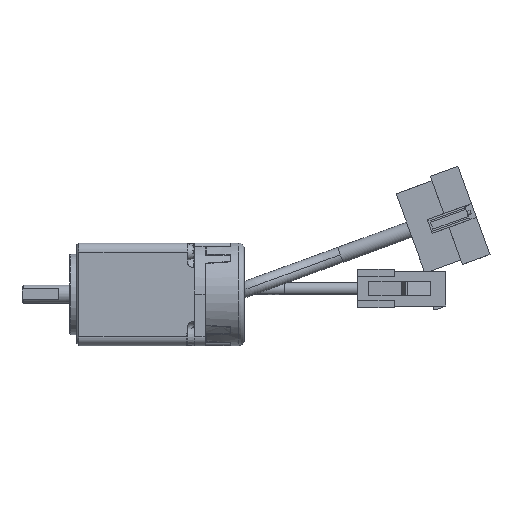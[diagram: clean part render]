
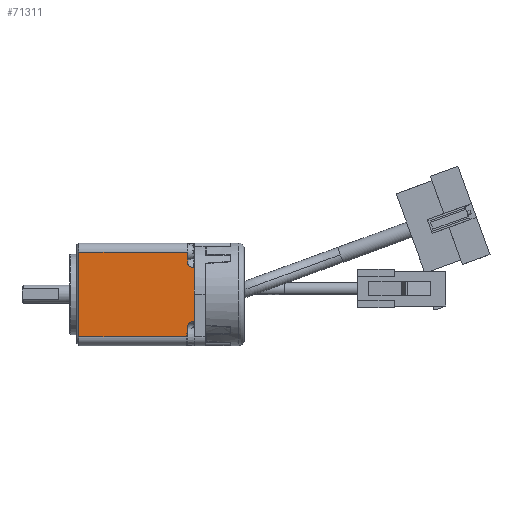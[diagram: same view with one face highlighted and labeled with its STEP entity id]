
A CAD part, front view. The second image highlights one B-rep face of the part: STEP entity #71311.
In plain terms, the highlighted planar face has unit normal (0, -1, 0).
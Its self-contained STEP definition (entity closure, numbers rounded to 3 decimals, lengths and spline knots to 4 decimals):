
#551=PLANE('',#75284);
#4130=LINE('',#100474,#13550);
#4131=LINE('',#100476,#13551);
#4132=LINE('',#100478,#13552);
#4133=LINE('',#100482,#13553);
#4134=LINE('',#100484,#13554);
#4135=LINE('',#100486,#13555);
#4136=LINE('',#100488,#13556);
#4137=LINE('',#100490,#13557);
#13550=VECTOR('',#81017,0.0118);
#13551=VECTOR('',#81018,0.5787);
#13552=VECTOR('',#81019,0.0118);
#13553=VECTOR('',#81022,0.1063);
#13554=VECTOR('',#81023,1.1693);
#13555=VECTOR('',#81024,0.9055);
#13556=VECTOR('',#81025,1.1693);
#13557=VECTOR('',#81026,0.1024);
#22933=FACE_OUTER_BOUND('',#26759,.T.);
#26759=EDGE_LOOP('',(#50606,#50607,#50608,#50609,#50610,#50611,#50612,#50613,
#50614,#50615));
#30705=CIRCLE('',#75285,0.0591);
#30706=CIRCLE('',#75286,0.0591);
#32048=VERTEX_POINT('',#100472);
#32049=VERTEX_POINT('',#100473);
#32050=VERTEX_POINT('',#100475);
#32051=VERTEX_POINT('',#100477);
#32052=VERTEX_POINT('',#100479);
#32053=VERTEX_POINT('',#100481);
#32054=VERTEX_POINT('',#100483);
#32055=VERTEX_POINT('',#100485);
#32056=VERTEX_POINT('',#100487);
#32057=VERTEX_POINT('',#100489);
#39332=EDGE_CURVE('',#32048,#32049,#4130,.T.);
#39333=EDGE_CURVE('',#32049,#32050,#4131,.T.);
#39334=EDGE_CURVE('',#32050,#32051,#4132,.T.);
#39335=EDGE_CURVE('',#32052,#32051,#30705,.T.);
#39336=EDGE_CURVE('',#32053,#32052,#4133,.T.);
#39337=EDGE_CURVE('',#32054,#32053,#4134,.T.);
#39338=EDGE_CURVE('',#32054,#32055,#4135,.T.);
#39339=EDGE_CURVE('',#32055,#32056,#4136,.T.);
#39340=EDGE_CURVE('',#32056,#32057,#4137,.T.);
#39341=EDGE_CURVE('',#32057,#32048,#30706,.T.);
#50606=ORIENTED_EDGE('',*,*,#39332,.T.);
#50607=ORIENTED_EDGE('',*,*,#39333,.T.);
#50608=ORIENTED_EDGE('',*,*,#39334,.T.);
#50609=ORIENTED_EDGE('',*,*,#39335,.F.);
#50610=ORIENTED_EDGE('',*,*,#39336,.F.);
#50611=ORIENTED_EDGE('',*,*,#39337,.F.);
#50612=ORIENTED_EDGE('',*,*,#39338,.T.);
#50613=ORIENTED_EDGE('',*,*,#39339,.T.);
#50614=ORIENTED_EDGE('',*,*,#39340,.T.);
#50615=ORIENTED_EDGE('',*,*,#39341,.T.);
#71311=ADVANCED_FACE('',(#22933),#551,.T.);
#75284=AXIS2_PLACEMENT_3D('',#100471,#81015,#81016);
#75285=AXIS2_PLACEMENT_3D('',#100480,#81020,#81021);
#75286=AXIS2_PLACEMENT_3D('',#100491,#81027,#81028);
#81015=DIRECTION('center_axis',(0.,-1.,0.));
#81016=DIRECTION('ref_axis',(0.,0.,1.));
#81017=DIRECTION('',(1.,0.,0.));
#81018=DIRECTION('',(0.,0.,1.));
#81019=DIRECTION('',(-1.,0.,0.));
#81020=DIRECTION('center_axis',(0.,-1.,0.));
#81021=DIRECTION('ref_axis',(1.,0.,0.));
#81022=DIRECTION('',(0.,0.,-1.));
#81023=DIRECTION('',(1.,0.,0.));
#81024=DIRECTION('',(0.,0.,-1.));
#81025=DIRECTION('',(1.,0.,0.));
#81026=DIRECTION('',(0.,0.,1.));
#81027=DIRECTION('center_axis',(0.,1.,0.));
#81028=DIRECTION('ref_axis',(-1.,0.,0.));
#100471=CARTESIAN_POINT('Origin',(2.1007,0.,
0.));
#100472=CARTESIAN_POINT('',(2.0495,0.,0.2598));
#100473=CARTESIAN_POINT('',(2.0613,0.,0.2598));
#100474=CARTESIAN_POINT('',(1.4511,0.,0.2598));
#100475=CARTESIAN_POINT('',(2.0613,0.,0.8386));
#100476=CARTESIAN_POINT('',(2.0613,0.,0.));
#100477=CARTESIAN_POINT('',(2.0495,0.,0.8386));
#100478=CARTESIAN_POINT('',(1.4511,0.,0.8386));
#100479=CARTESIAN_POINT('',(1.9904,0.,0.8976));
#100480=CARTESIAN_POINT('Origin',(2.0495,0.,
0.8976));
#100481=CARTESIAN_POINT('',(1.9904,0.,1.0039));
#100482=CARTESIAN_POINT('',(1.9904,0.,0.9863));
#100483=CARTESIAN_POINT('',(0.8211,0.,1.0039));
#100484=CARTESIAN_POINT('',(1.4511,0.,1.0039));
#100485=CARTESIAN_POINT('',(0.8211,0.,0.0984));
#100486=CARTESIAN_POINT('',(0.8211,0.,0.5512));
#100487=CARTESIAN_POINT('',(1.9904,0.,0.0984));
#100488=CARTESIAN_POINT('',(1.4511,0.,0.0984));
#100489=CARTESIAN_POINT('',(1.9904,0.,0.2008));
#100490=CARTESIAN_POINT('',(1.9904,0.,0.5512));
#100491=CARTESIAN_POINT('Origin',(2.0495,0.,
0.2008));
